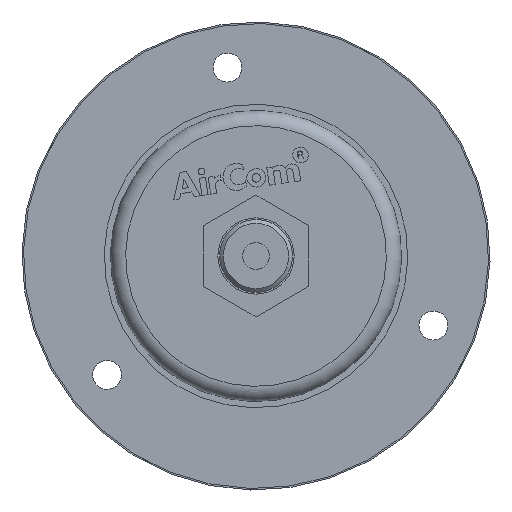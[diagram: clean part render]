
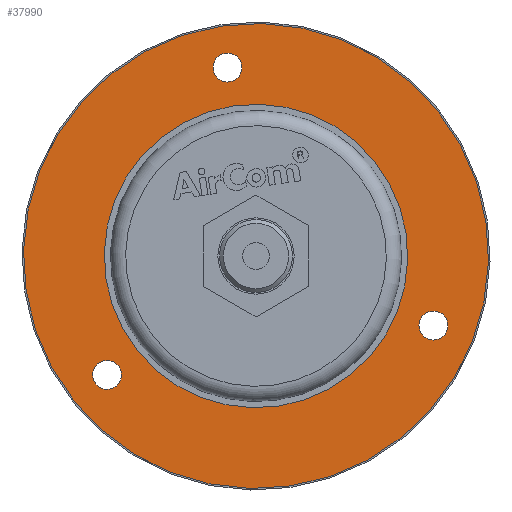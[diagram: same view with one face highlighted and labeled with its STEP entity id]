
A CAD part, front view. The second image highlights one B-rep face of the part: STEP entity #37990.
In plain terms, the highlighted planar face has unit normal (0, -1, 0).
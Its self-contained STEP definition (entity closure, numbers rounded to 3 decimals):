
#37669=CARTESIAN_POINT('',(20.701,27.5,-14.145));
#37670=VERTEX_POINT('',#37669);
#37671=CARTESIAN_POINT('',(21.651,27.5,-12.5));
#37672=DIRECTION('',(0.0,1.,0.0));
#37673=DIRECTION('',(0.5,0.0,0.866));
#37674=AXIS2_PLACEMENT_3D('',#37671,#37672,#37673);
#37675=CIRCLE('',#37674,1.9);
#37676=EDGE_CURVE('',#37670,#37670,#37675,.T.);
#37697=CARTESIAN_POINT('',(-22.601,27.5,-10.855));
#37698=VERTEX_POINT('',#37697);
#37699=CARTESIAN_POINT('',(-21.651,27.5,-12.5));
#37700=DIRECTION('',(0.0,1.,0.0));
#37701=DIRECTION('',(0.5,0.0,-0.866));
#37702=AXIS2_PLACEMENT_3D('',#37699,#37700,#37701);
#37703=CIRCLE('',#37702,1.9);
#37704=EDGE_CURVE('',#37698,#37698,#37703,.T.);
#37725=CARTESIAN_POINT('',(1.9,27.5,25.0));
#37726=VERTEX_POINT('',#37725);
#37727=CARTESIAN_POINT('',(0.0,27.5,25.0));
#37728=DIRECTION('',(0.0,1.0,0.0));
#37729=DIRECTION('',(-1.0,0.0,0.0));
#37730=AXIS2_PLACEMENT_3D('',#37727,#37728,#37729);
#37731=CIRCLE('',#37730,1.9);
#37732=EDGE_CURVE('',#37726,#37726,#37731,.T.);
#37947=CARTESIAN_POINT('',(30.5,27.5,0.0));
#37948=VERTEX_POINT('',#37947);
#37949=CARTESIAN_POINT('',(0.0,27.5,0.0));
#37950=DIRECTION('',(0.0,-1.0,0.0));
#37951=DIRECTION('',(1.0,0.0,0.0));
#37952=AXIS2_PLACEMENT_3D('',#37949,#37950,#37951);
#37953=CIRCLE('',#37952,30.5);
#37954=EDGE_CURVE('',#37948,#37948,#37953,.T.);
#37962=CARTESIAN_POINT('',(25.2,27.5,0.0));
#37963=DIRECTION('',(0.0,-1.0,0.0));
#37964=DIRECTION('',(0.0,0.0,-1.0));
#37965=AXIS2_PLACEMENT_3D('',#37962,#37963,#37964);
#37966=PLANE('',#37965);
#37967=ORIENTED_EDGE('',*,*,#37954,.T.);
#37968=EDGE_LOOP('',(#37967));
#37969=FACE_OUTER_BOUND('',#37968,.T.);
#37970=ORIENTED_EDGE('',*,*,#37676,.T.);
#37971=EDGE_LOOP('',(#37970));
#37972=FACE_BOUND('',#37971,.T.);
#37973=ORIENTED_EDGE('',*,*,#37704,.T.);
#37974=EDGE_LOOP('',(#37973));
#37975=FACE_BOUND('',#37974,.T.);
#37976=ORIENTED_EDGE('',*,*,#37732,.T.);
#37977=EDGE_LOOP('',(#37976));
#37978=FACE_BOUND('',#37977,.T.);
#37979=CARTESIAN_POINT('',(19.9,27.5,0.0));
#37980=VERTEX_POINT('',#37979);
#37981=CARTESIAN_POINT('',(0.0,27.5,0.0));
#37982=DIRECTION('',(0.0,-1.0,0.0));
#37983=DIRECTION('',(1.0,0.0,0.0));
#37984=AXIS2_PLACEMENT_3D('',#37981,#37982,#37983);
#37985=CIRCLE('',#37984,19.9);
#37986=EDGE_CURVE('',#37980,#37980,#37985,.T.);
#37987=ORIENTED_EDGE('',*,*,#37986,.F.);
#37988=EDGE_LOOP('',(#37987));
#37989=FACE_BOUND('',#37988,.T.);
#37990=ADVANCED_FACE('',(#37969,#37972,#37975,#37978,#37989),#37966,.T.);
